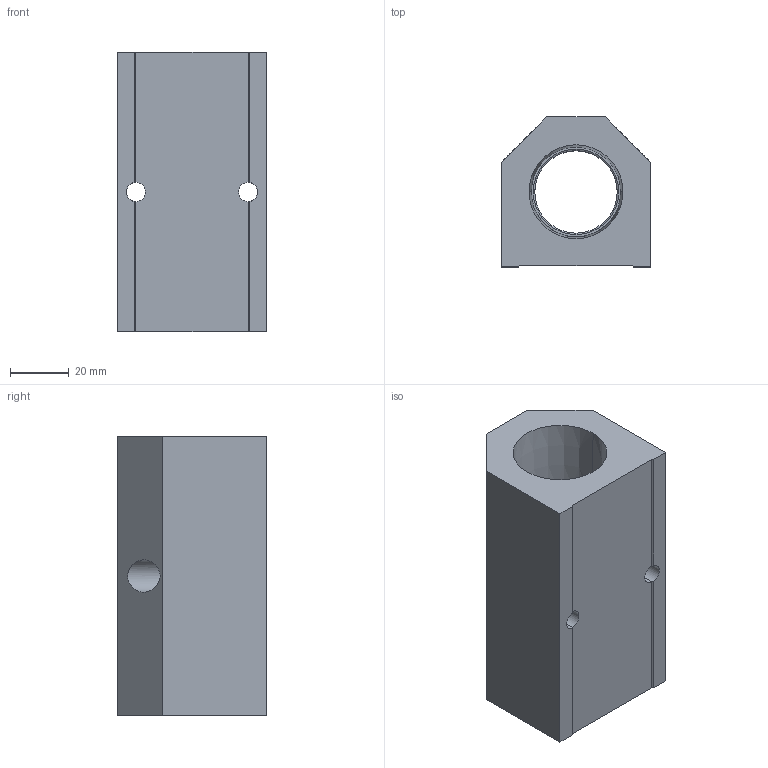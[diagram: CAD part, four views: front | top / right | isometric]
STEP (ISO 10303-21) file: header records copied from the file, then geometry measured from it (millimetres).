
FILE_DESCRIPTION (( 'STEP AP214' ), '1' );
FILE_NAME ('ALM2C-N4N16-95R.STEP', '2023-11-02T06:46:04', ( '' ), ( '' ), 'SwSTEP 2.0', 'SolidWorks 2020', '' );
FILE_SCHEMA (( 'AUTOMOTIVE_DESIGN' ));
Length unit declared in the file: millimetre
Products named in the file (1): ALM2C-N4N16-95R
Bounding box: 50.8 x 50.8 x 95 mm (x, y, z)
Volume: 148475.2 mm3; surface area: 31873.8 mm2
Topology: 1 solids, 1 shells, 256 faces, 666 edges, 440 vertices
Faces by surface type: plane 181, bspline 49, cylinder 14, cone 12
Entity records: 13552 total; most frequent: CARTESIAN_POINT 5192, ORIENTED_EDGE 1332, DIRECTION 1008, EDGE_CURVE 666, LINE 520, VECTOR 520, VERTEX_POINT 440, EDGE_LOOP 294
